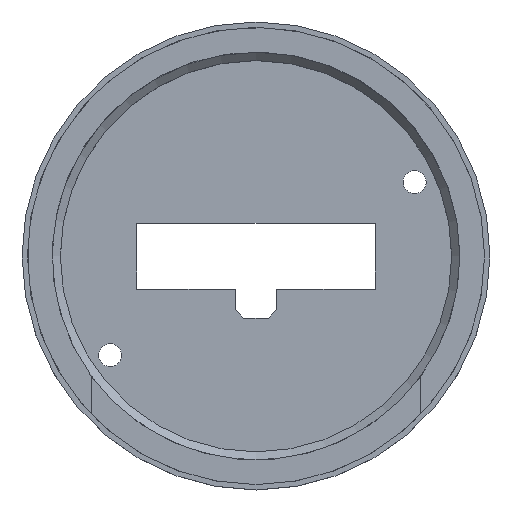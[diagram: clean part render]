
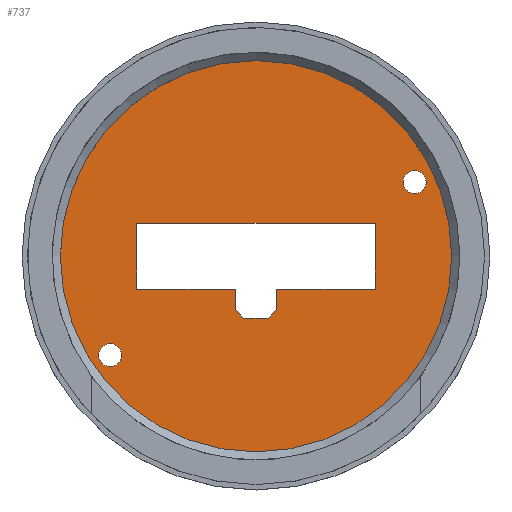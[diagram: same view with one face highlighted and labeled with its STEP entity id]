
A CAD part, top view. The second image highlights one B-rep face of the part: STEP entity #737.
In plain terms, the highlighted planar face has unit normal (0, 0, 1).
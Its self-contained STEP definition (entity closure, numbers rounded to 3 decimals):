
#26=FACE_BOUND('',#127,.T.);
#27=FACE_BOUND('',#128,.T.);
#28=FACE_BOUND('',#129,.T.);
#43=PLANE('',#872);
#81=FACE_OUTER_BOUND('',#126,.T.);
#126=EDGE_LOOP('',(#646));
#127=EDGE_LOOP('',(#647));
#128=EDGE_LOOP('',(#648));
#129=EDGE_LOOP('',(#649,#650,#651,#652,#653,#654,#655,#656,#657,#658));
#154=CIRCLE('',#861,23.75);
#155=CIRCLE('',#869,1.4);
#156=CIRCLE('',#871,1.4);
#213=LINE('',#2912,#267);
#216=LINE('',#2917,#270);
#218=LINE('',#2921,#272);
#220=LINE('',#2925,#274);
#223=LINE('',#2933,#277);
#225=LINE('',#2937,#279);
#227=LINE('',#2941,#281);
#229=LINE('',#2945,#283);
#230=LINE('',#2948,#284);
#232=LINE('',#2951,#286);
#267=VECTOR('',#1006,10.);
#270=VECTOR('',#1011,10.);
#272=VECTOR('',#1015,10.);
#274=VECTOR('',#1019,10.);
#277=VECTOR('',#1028,10.);
#279=VECTOR('',#1032,10.);
#281=VECTOR('',#1036,10.);
#283=VECTOR('',#1040,10.);
#284=VECTOR('',#1043,10.);
#286=VECTOR('',#1047,10.);
#350=VERTEX_POINT('',#2909);
#351=VERTEX_POINT('',#2911);
#352=VERTEX_POINT('',#2915);
#353=VERTEX_POINT('',#2919);
#354=VERTEX_POINT('',#2923);
#355=VERTEX_POINT('',#2927);
#356=VERTEX_POINT('',#2931);
#357=VERTEX_POINT('',#2935);
#358=VERTEX_POINT('',#2939);
#359=VERTEX_POINT('',#2943);
#360=VERTEX_POINT('',#2947);
#361=VERTEX_POINT('',#2953);
#362=VERTEX_POINT('',#2957);
#439=EDGE_CURVE('',#350,#351,#213,.T.);
#442=EDGE_CURVE('',#350,#352,#216,.T.);
#444=EDGE_CURVE('',#353,#352,#218,.T.);
#446=EDGE_CURVE('',#353,#354,#220,.T.);
#448=EDGE_CURVE('',#355,#355,#154,.T.);
#450=EDGE_CURVE('',#354,#356,#223,.T.);
#452=EDGE_CURVE('',#356,#357,#225,.T.);
#454=EDGE_CURVE('',#357,#358,#227,.T.);
#456=EDGE_CURVE('',#358,#359,#229,.T.);
#457=EDGE_CURVE('',#360,#351,#230,.T.);
#459=EDGE_CURVE('',#359,#360,#232,.T.);
#460=EDGE_CURVE('',#361,#361,#155,.T.);
#462=EDGE_CURVE('',#362,#362,#156,.T.);
#646=ORIENTED_EDGE('',*,*,#448,.T.);
#647=ORIENTED_EDGE('',*,*,#462,.T.);
#648=ORIENTED_EDGE('',*,*,#460,.T.);
#649=ORIENTED_EDGE('',*,*,#459,.T.);
#650=ORIENTED_EDGE('',*,*,#457,.T.);
#651=ORIENTED_EDGE('',*,*,#439,.F.);
#652=ORIENTED_EDGE('',*,*,#442,.T.);
#653=ORIENTED_EDGE('',*,*,#444,.F.);
#654=ORIENTED_EDGE('',*,*,#446,.T.);
#655=ORIENTED_EDGE('',*,*,#450,.T.);
#656=ORIENTED_EDGE('',*,*,#452,.T.);
#657=ORIENTED_EDGE('',*,*,#454,.T.);
#658=ORIENTED_EDGE('',*,*,#456,.T.);
#737=ADVANCED_FACE('',(#81,#26,#27,#28),#43,.T.);
#861=AXIS2_PLACEMENT_3D('',#2929,#1023,#1024);
#869=AXIS2_PLACEMENT_3D('',#2954,#1050,#1051);
#871=AXIS2_PLACEMENT_3D('',#2958,#1055,#1056);
#872=AXIS2_PLACEMENT_3D('',#2960,#1058,#1059);
#1006=DIRECTION('',(0.707,0.707,0.));
#1011=DIRECTION('',(-1.,0.,0.));
#1015=DIRECTION('',(0.707,-0.707,0.));
#1019=DIRECTION('',(0.,1.,0.));
#1023=DIRECTION('center_axis',(0.,0.,1.));
#1024=DIRECTION('ref_axis',(-1.,0.,0.));
#1028=DIRECTION('',(-1.,0.,0.));
#1032=DIRECTION('',(0.,1.,0.));
#1036=DIRECTION('',(1.,0.,0.));
#1040=DIRECTION('',(0.,-1.,0.));
#1043=DIRECTION('',(0.,-1.,0.));
#1047=DIRECTION('',(-1.,0.,0.));
#1050=DIRECTION('center_axis',(0.,0.,-1.));
#1051=DIRECTION('ref_axis',(1.,0.,0.));
#1055=DIRECTION('center_axis',(0.,0.,-1.));
#1056=DIRECTION('ref_axis',(1.,0.,0.));
#1058=DIRECTION('center_axis',(0.,0.,1.));
#1059=DIRECTION('ref_axis',(1.,0.,0.));
#2909=CARTESIAN_POINT('',(1.5,-7.5,1.));
#2911=CARTESIAN_POINT('',(2.5,-6.5,1.));
#2912=CARTESIAN_POINT('',(3.25,-5.75,1.));
#2915=CARTESIAN_POINT('',(-1.5,-7.5,1.));
#2917=CARTESIAN_POINT('',(2.5,-7.5,1.));
#2919=CARTESIAN_POINT('',(-2.5,-6.5,1.));
#2921=CARTESIAN_POINT('',(-3.25,-5.75,1.));
#2923=CARTESIAN_POINT('',(-2.5,-4.,1.));
#2925=CARTESIAN_POINT('',(-2.5,-7.5,1.));
#2927=CARTESIAN_POINT('',(23.75,0.,1.));
#2929=CARTESIAN_POINT('Origin',(0.,0.,1.));
#2931=CARTESIAN_POINT('',(-14.5,-4.,1.));
#2933=CARTESIAN_POINT('',(-14.5,-4.,1.));
#2935=CARTESIAN_POINT('',(-14.5,4.,1.));
#2937=CARTESIAN_POINT('',(-14.5,4.,1.));
#2939=CARTESIAN_POINT('',(14.5,4.,1.));
#2941=CARTESIAN_POINT('',(14.5,4.,1.));
#2943=CARTESIAN_POINT('',(14.5,-4.,1.));
#2945=CARTESIAN_POINT('',(14.5,-4.,1.));
#2947=CARTESIAN_POINT('',(2.5,-4.,1.));
#2948=CARTESIAN_POINT('',(2.5,-4.,1.));
#2951=CARTESIAN_POINT('',(-14.5,-4.,1.));
#2953=CARTESIAN_POINT('',(-19.106,-12.,1.));
#2954=CARTESIAN_POINT('Origin',(-17.706,-12.,1.));
#2957=CARTESIAN_POINT('',(17.856,9.,1.));
#2958=CARTESIAN_POINT('Origin',(19.256,9.,1.));
#2960=CARTESIAN_POINT('Origin',(0.,0.,1.));
